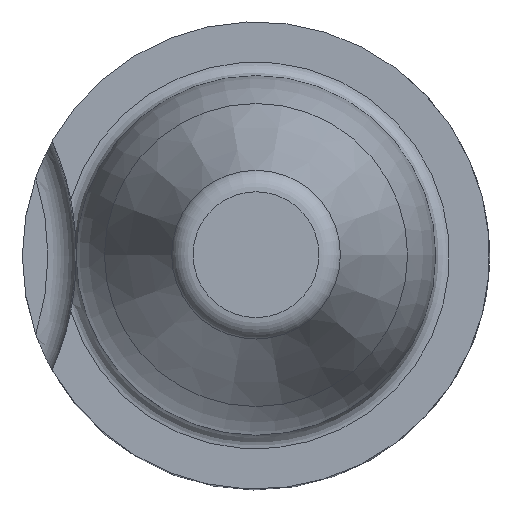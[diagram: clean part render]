
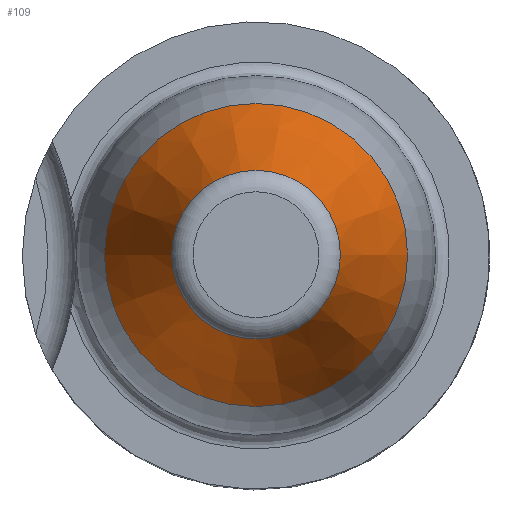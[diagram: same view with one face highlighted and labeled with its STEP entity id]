
A CAD part, top view. The second image highlights one B-rep face of the part: STEP entity #109.
In plain terms, the highlighted conical face has half-angle 20 degrees and reference radius 4.216 mm.
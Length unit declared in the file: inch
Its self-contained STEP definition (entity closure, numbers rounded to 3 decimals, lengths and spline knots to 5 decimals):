
#4 = FACE_OUTER_BOUND ( 'NONE', #353, .T. ) ;
#20 = ORIENTED_EDGE ( 'NONE', *, *, #289, .F. ) ;
#43 = DIRECTION ( 'NONE',  ( 1., 0., 0. ) ) ;
#84 = DIRECTION ( 'NONE',  ( 1., 0., 0. ) ) ;
#106 = DIRECTION ( 'NONE',  ( 0., 0., -1. ) ) ;
#109 = ADVANCED_FACE ( 'NONE', ( #331, #4 ), #371, .T. ) ;
#129 = AXIS2_PLACEMENT_3D ( 'NONE', #176, #106, #393 ) ;
#173 = AXIS2_PLACEMENT_3D ( 'NONE', #338, #445, #84 ) ;
#174 = EDGE_CURVE ( 'NONE', #330, #330, #266, .T. ) ;
#176 = CARTESIAN_POINT ( 'NONE',  ( 0., 0., 0.25011 ) ) ;
#192 = AXIS2_PLACEMENT_3D ( 'NONE', #413, #377, #43 ) ;
#262 = VERTEX_POINT ( 'NONE', #292 ) ;
#265 = CARTESIAN_POINT ( 'NONE',  ( 0.16597, 0., 0.25011 ) ) ;
#266 = CIRCLE ( 'NONE', #173, 0.16597 ) ;
#289 = EDGE_CURVE ( 'NONE', #262, #262, #417, .T. ) ;
#292 = CARTESIAN_POINT ( 'NONE',  ( 0.0924, 0., 0.45225 ) ) ;
#330 = VERTEX_POINT ( 'NONE', #265 ) ;
#331 = FACE_BOUND ( 'NONE', #357, .T. ) ;
#338 = CARTESIAN_POINT ( 'NONE',  ( 0., 0., 0.25011 ) ) ;
#353 = EDGE_LOOP ( 'NONE', ( #403 ) ) ;
#357 = EDGE_LOOP ( 'NONE', ( #20 ) ) ;
#371 = CONICAL_SURFACE ( 'NONE', #129, 0.16597, 0.349 ) ;
#377 = DIRECTION ( 'NONE',  ( 0., 0., 1. ) ) ;
#393 = DIRECTION ( 'NONE',  ( -1., 0., 0. ) ) ;
#403 = ORIENTED_EDGE ( 'NONE', *, *, #174, .T. ) ;
#413 = CARTESIAN_POINT ( 'NONE',  ( 0., 0., 0.45225 ) ) ;
#417 = CIRCLE ( 'NONE', #192, 0.0924 ) ;
#445 = DIRECTION ( 'NONE',  ( 0., 0., 1. ) ) ;
